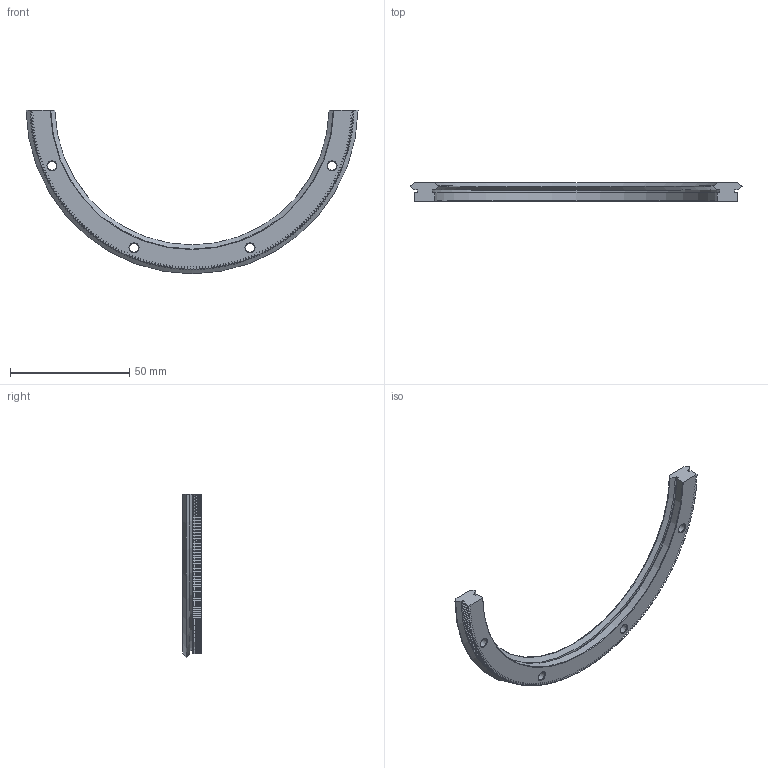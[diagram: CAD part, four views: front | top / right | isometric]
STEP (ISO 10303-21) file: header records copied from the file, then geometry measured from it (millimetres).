
FILE_DESCRIPTION( ( 'STEP AP203' ), '1' );
FILE_NAME( 'p:/temp/worker_47/temp/exporttempdir_4764_855_NeCh6/format_0/R12 127 R180 P.stp', '2021-08-30T04:09:59', ( 'License CC BY-ND 4.0' ), ( 'CADENAS' ), ' ', 'PARTsolutions', ' ' );
FILE_SCHEMA( ( 'CONFIG_CONTROL_DESIGN' ) );
Length unit declared in the file: millimetre
Products named in the file (1): _R12 127 R180 P
Bounding box: 139.09 x 7.7 x 68.55 mm (x, y, z)
Volume: 12631.5 mm3; surface area: 9216.3 mm2
Topology: 1 solids, 1 shells, 702 faces, 2084 edges, 1388 vertices
Faces by surface type: plane 346, cylinder 178, cone 176, torus 2
Full cylindrical faces by diameter (mm): 3.7 x4, 6 x4
Entity records: 23894 total; most frequent: CARTESIAN_POINT 5222, ORIENTED_EDGE 4144, DIRECTION 3664, EDGE_CURVE 2072, VERTEX_POINT 1389, AXIS2_PLACEMENT_3D 1239, LINE 1186, VECTOR 1186
